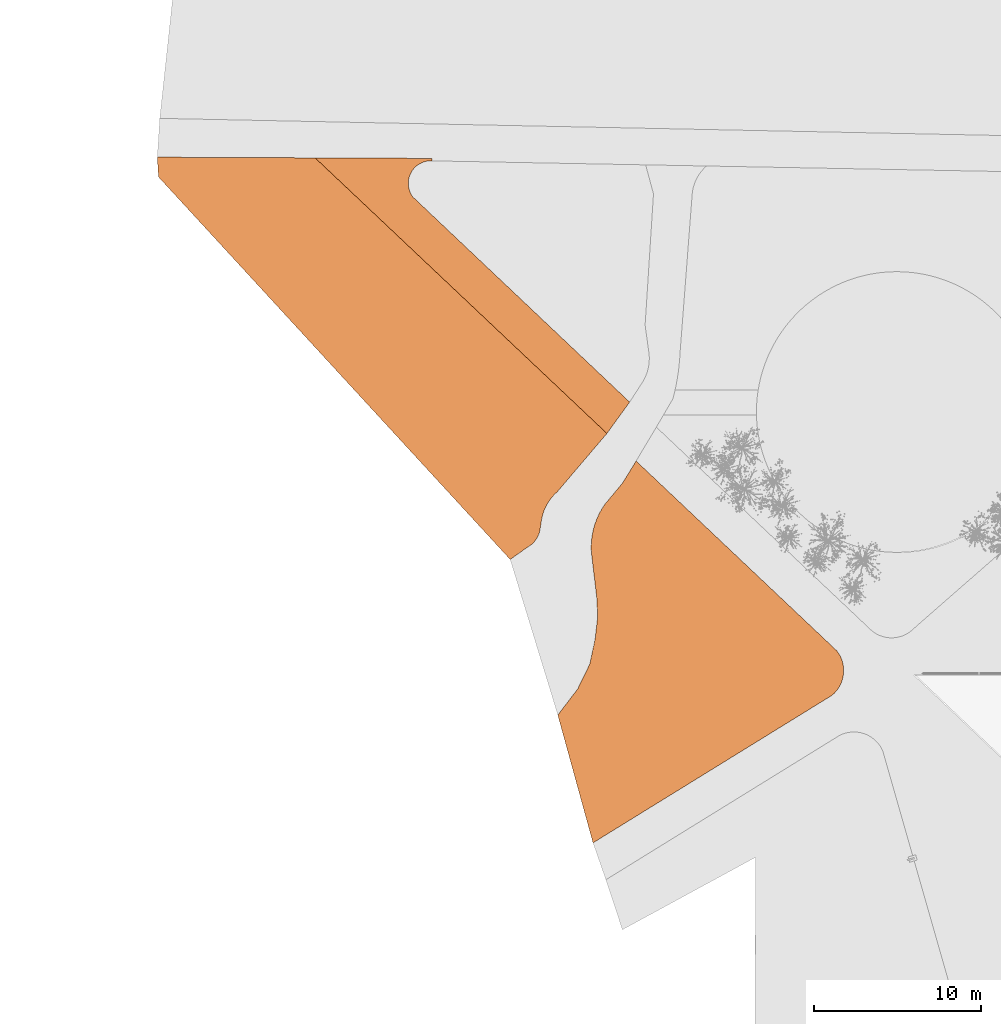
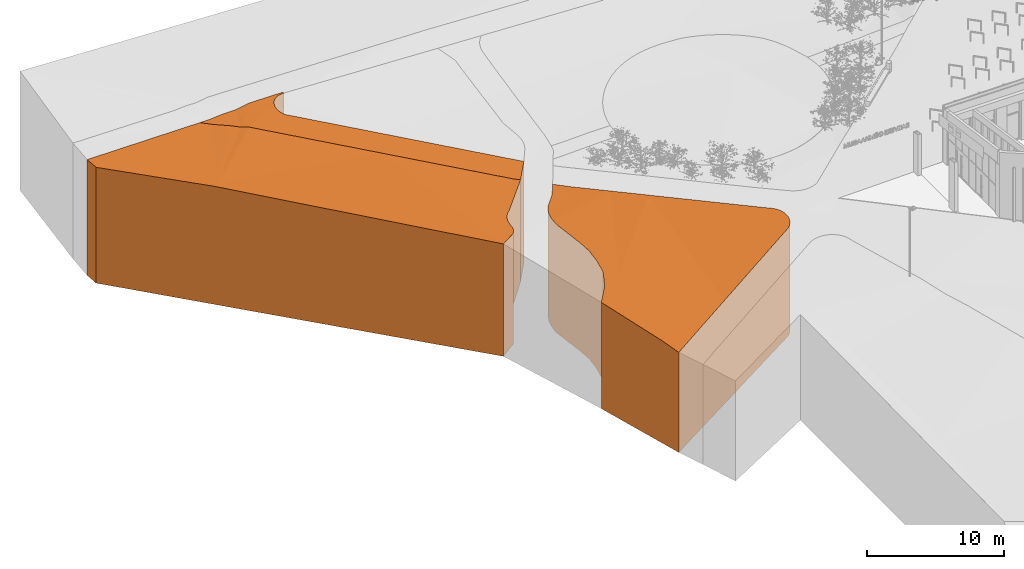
# One storey, part 218 of 246: 3 proxies.
"""IFC2X3 building model written with IfcOpenShell, lengths in millimetres."""

from ifc_helpers import new_model, entity, si_unit, converted_unit, derived_unit, money_unit, direction, frame, origin_with_axes, place, context, subcontext, project, spatial, faceted_brep, material, type_object, element, save


model = new_model("IFC2X3")

# Units and contexts
model_context = context("Model", 3, precision=0.01, world=origin_with_axes(), true_north=direction((0.0, 1.0)))
body_context = subcontext(model_context, "Body", "Model", "MODEL_VIEW")
ifc_project = project(units=[si_unit("LENGTHUNIT", "METRE", prefix="MILLI"), si_unit("AREAUNIT", "SQUARE_METRE"), si_unit("VOLUMEUNIT", "CUBIC_METRE"), converted_unit("PLANEANGLEUNIT", "DEGREE", entity("IfcPlaneAngleMeasure", 0.0174532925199), si_unit("PLANEANGLEUNIT", "RADIAN"), dimensions=[0, 0, 0, 0, 0, 0, 0]), si_unit("SOLIDANGLEUNIT", "STERADIAN"), money_unit("EUR"), converted_unit("TIMEUNIT", "Year", entity("IfcTimeMeasure", 31556926.0), si_unit("TIMEUNIT", "SECOND"), dimensions=[0, 0, 1, 0, 0, 0, 0]), si_unit("MASSUNIT", "GRAM", prefix="KILO"), si_unit("THERMODYNAMICTEMPERATUREUNIT", "DEGREE_CELSIUS"), si_unit("LUMINOUSINTENSITYUNIT", "LUMEN"), si_unit("ENERGYUNIT", "JOULE", prefix="MEGA"), derived_unit("THERMALCONDUCTANCEUNIT", [(si_unit("POWERUNIT", "WATT"), 1), (si_unit("LENGTHUNIT", "METRE"), -1), (si_unit("THERMODYNAMICTEMPERATUREUNIT", "KELVIN"), -1)]), derived_unit("SPECIFICHEATCAPACITYUNIT", [(si_unit("ENERGYUNIT", "JOULE"), 1), (si_unit("MASSUNIT", "GRAM", prefix="KILO"), -1), (si_unit("THERMODYNAMICTEMPERATUREUNIT", "KELVIN"), -1)]), derived_unit("MASSDENSITYUNIT", [(si_unit("MASSUNIT", "GRAM", prefix="KILO"), 1), (si_unit("VOLUMEUNIT", "CUBIC_METRE"), -1)])], contexts=[model_context])

# Site, building, storey
site_placement = place(None, origin_with_axes())
site = spatial("IfcSite", under=ifc_project, at=site_placement, Name="L.Koidula tn 11b", CompositionType="ELEMENT")
building_placement = place(site_placement, origin_with_axes())
building = spatial("IfcBuilding", under=site, at=building_placement, Name="Rakvere Riigigümnaasium", CompositionType="ELEMENT")
storey_placement = place(building_placement, origin_with_axes())
storey = spatial("IfcBuildingStorey", under=building, at=storey_placement, Name="1.korrus 0,00", CompositionType="ELEMENT", Elevation=0.0)

# Proxies
ifc_material_1 = material(Name="Roheala")
building_element_proxy_type_1 = type_object("IfcBuildingElementProxyType", Name="Roheala", PredefinedType="NOTDEFINED")
proxy_1_placement = place(storey_placement, frame((-15994.9548601, 62073.0268802, -10000.0), z_axis=(0.0, 0.0, 1.0), x_axis=(1.0, 0.0, 0.0)))
element("IfcBuildingElementProxy", 1, at=proxy_1_placement, inside=storey, type_object=building_element_proxy_type_1, material=ifc_material_1, Name="Roheala", context=body_context, shape_type="Brep", body=[
    faceted_brep([(16156.7066619, 10041.8390009, 9600.0), (17099.0324356, 10041.8185367, 9664.72939791), (17100.8469506, 10052.1401658, 9664.82402897), (17114.9200595, 10189.9067807, 9665.39017253), (17119.0155533, 10328.3297539, 9665.26903498), (17113.11208, 10466.6874121, 9664.46124788), (17097.2404176, 10604.2584226, 9662.97102264), (17071.4833135, 10740.3255537, 9660.80612862), (17035.9750535, 10874.1794145, 9657.97785256), (16990.900761, 11005.1221529, 9654.5009398), (16936.4954327, 11132.4710941, 9650.39351734), (16873.0427126, 11255.5622997, 9645.67699938), (16800.8734139, 11373.7540292, 9640.37597567), (16720.363794, 11486.4300856, 9634.51808329), (16701.0277631, 11509.0973122, 9633.12396681), (16237.3668593, 11947.4903487, 9600.0), (17076.8695973, 9915.74816045, 9663.64579033), (16921.1259948, 9469.99557827, 9654.49901788), (16947.0161435, 9521.8726301, 9656.09688378), (16999.7531691, 9649.92144392, 9659.2737779), (17043.1130064, 9781.44184953, 9661.79446064), (17076.8695973, 9915.74816045, 0.0), (17100.8469506, 10052.1401658, 0.0), (17114.9200595, 10189.9067807, 0.0), (17119.0155533, 10328.3297539, 0.0), (17113.11208, 10466.6874121, 0.0), (17097.2404176, 10604.2584226, 0.0), (17071.4833135, 10740.3255537, 0.0), (17035.9750535, 10874.1794145, 0.0), (16990.900761, 11005.1221529, 0.0), (16936.4954327, 11132.4710941, 0.0), (16873.0427126, 11255.5622997, 0.0), (16800.8734139, 11373.7540292, 0.0), (16720.363794, 11486.4300856, 0.0), (16701.0277631, 11509.0973122, 0.0), (16213.0162566, 11970.5139303, 9598.70852704), (4689.225664, 22866.2989935, 0.0), (4689.225664, 22866.2989935, 9100.28595113), (5734.1904822, 21878.2810348, 9100.54976443), (7820.29489852, 19905.8618767, 9201.46424914), (7831.56760316, 19895.2034943, 9200.62572091), (9920.79501551, 17919.8315322, 9300.77121466), (9935.33506409, 17906.0838645, 9299.75496812), (12020.7416541, 15934.3245035, 9399.03628629), (12025.9779707, 15929.3735476, 9399.29522313), (14108.2471472, 13960.5806223, 9498.42991466), (14115.6024252, 13953.6261807, 9498.80037399), (14125.6521433, 13944.1241365, 9499.27885234), (14139.9732124, 13930.5835146, 9500.0), (15324.9636344, 10041.8570637, 9557.58461595), (16076.4025394, 8620.30495858, 9598.97319683), (16097.0777387, 8633.06563527, 9600.0), (16885.1768762, 9397.96299531, 9652.22539984), (16398.2150977, 8818.92679297, 9620.26689285), (16452.2911499, 8862.17264516, 9623.87740265), (16553.9202794, 8956.24289882, 9630.62547462), (16648.4965868, 9057.40126302, 9636.86541763), (16735.5269952, 9165.12034488, 9642.5646995), (16814.5577683, 9278.838547, 9647.69360682), (16885.1768762, 9397.96299531, 0.0), (16947.0161435, 9521.8726301, 0.0), (16999.7531691, 9649.92144392, 0.0), (17043.1130064, 9781.44184953, 0.0), (16452.2911499, 8862.17264516, 0.0), (16398.2150977, 8818.92679297, 0.0), (2109.54738165, 0.0, 0.0), (0.0, 7655.52130176, 0.0), (1191.07207449, 9220.29064966, 0.0), (1917.33638755, 10709.5983163, 0.0), (2240.15294786, 12243.540292, 0.0), (2385.80077875, 13532.3336251, 0.0), (2329.21272424, 14707.5340145, 0.0), (2006.53798504, 17439.9481807, 0.0), (1998.62974885, 17649.857226, 0.0), (2001.87971486, 17861.7866882, 0.0), (2015.13430174, 18073.3262238, 0.0), (2038.3639333, 18284.0038054, 0.0), (2071.51677517, 18493.3493291, 0.0), (2114.51885039, 18700.895663, 0.0), (2167.27420451, 18906.1796902, 0.0), (2229.66511972, 19108.7433416, 0.0), (2301.55237747, 19308.1346187, 0.0), (2382.77556919, 19503.9086014, 0.0), (2473.15345419, 19695.6284416, 0.0), (2572.48436405, 19882.8663372, 0.0), (2680.54665268, 20065.2044872, 0.0), (2797.09919085, 20242.2360241, 0.0), (2859.49054757, 20327.9009726, 0.0), (3873.59231228, 21543.5403082, 0.0), (16814.5577683, 9278.838547, 0.0), (16735.5269952, 9165.12034488, 0.0), (16648.4965868, 9057.40126302, 0.0), (16553.9202794, 8956.24289882, 0.0), (3873.59231228, 21543.5403082, 9246.08283345), (2731.83241312, 20143.1023789, 9418.7140207), (2859.49054757, 20327.9009726, 9397.44489149), (2797.09919085, 20242.2360241, 9407.51547506), (2041.35838746, 18302.9124582, 9637.89208819), (2680.54665268, 20065.2044872, 9429.03804669), (2572.48436405, 19882.8663372, 9452.63557494), (2473.15345419, 19695.6284416, 9476.31549017), (2382.77556919, 19503.9086014, 9500.02495324), (2301.55237747, 19308.1346187, 9523.71105906), (2229.66511972, 19108.7433416, 9547.32095466), (2167.27420451, 18906.1796902, 9570.80195714), (2114.51885039, 18700.895663, 9594.1016712), (2071.51677517, 18493.3493291, 9617.16810607), (2844.89465221, 10042.1280895, 9585.08075181), (2038.3639333, 18284.0038054, 9638.1350055), (2015.13430174, 18073.3262238, 9640.07882843), (2001.87971486, 17861.7866882, 9641.27269878), (1998.62974885, 17649.857226, 9641.71395258), (2006.53798504, 17439.9481807, 9641.31353116), (2329.21272424, 14707.5340145, 9619.56347642), (2385.80077875, 13532.3336251, 9616.39496611), (2240.15294786, 12243.540292, 9628.55275141), (1997.6153108, 11091.0632883, 9647.87627078), (8013.21464666, 3643.72735476, 9202.03431083), (8048.01275203, 3665.2046506, 9200.38696971), (8893.11942086, 10041.9967421, 9244.88205016), (10008.9579584, 10041.9725097, 9300.0), (10981.1060363, 10041.9513979, 9346.66821972), (12056.8439641, 10041.9280364, 9400.0), (13102.2988653, 10041.9053326, 9449.90698628), (14067.285023, 7380.28310011, 9499.27535568), (16060.3833717, 8610.4179719, 9598.25787389), (14105.43552, 10041.8835478, 9500.0), (2163.93986106, 33.5708901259, 8905.3765435), (2109.54738165, 0.0, 8900.0), (14056.9456313, 7373.90165573, 9498.78970198), (12056.3519353, 6139.14067604, 9399.43554474), (12048.569951, 6134.33765653, 9399.06338372), (6009.91603472, 2407.29690832, 9102.61450968), (5913.45335294, 2347.76040388, 9100.0), (3950.85707139, 1136.4513249, 9002.64240426), (1643.09345214, 1692.75552886, 9101.55582809), (0.0, 7655.52130176, 9451.50249505), (1694.2790956, 1507.00346314, 9081.1301184), (1651.14743871, 1663.52771143, 9099.69219785), (1650.39848229, 1666.24566499, 9100.0), (1646.19224325, 1681.51005434, 9100.94449812), (1191.07207449, 9220.29064966, 9528.75841779), (1422.33153013, 9694.52086319, 9553.33782692), (1591.85626441, 10042.1553014, 9574.48079995), (1917.33638755, 10709.5983163, 9621.75324117)], [[[0, 1, 2, 3, 4, 5, 6, 7, 8, 9, 10, 11, 12, 13, 14, 15]], [[16, 1, 0, 17, 18, 19, 20]], [[1, 16, 21, 22, 2]], [[23, 3, 2, 22]], [[24, 4, 3, 23]], [[25, 5, 4, 24]], [[26, 6, 5, 25]], [[27, 7, 6, 26]], [[28, 8, 7, 27]], [[29, 9, 8, 28]], [[30, 10, 9, 29]], [[31, 11, 10, 30]], [[32, 12, 11, 31]], [[33, 13, 12, 32]], [[34, 14, 13, 33]], [[35, 15, 14, 34, 36, 37, 38, 39, 40, 41, 42, 43, 44, 45, 46, 47, 48]], [[49, 50, 51, 0, 15, 35]], [[52, 17, 0, 51, 53, 54, 55, 56, 57, 58]], [[17, 52, 59, 60, 18]], [[19, 18, 60, 61]], [[20, 19, 61, 62]], [[16, 20, 62, 21]], [[63, 64, 65, 66, 67, 68, 69, 70, 71, 72, 73, 74, 75, 76, 77, 78, 79, 80, 81, 82, 83, 84, 85, 86, 87, 88, 36, 34, 33, 32, 31, 30, 29, 28, 27, 26, 25, 24, 23, 22, 21, 62, 61, 60, 59, 89, 90, 91, 92]], [[88, 93, 37, 36]], [[94, 38, 37, 93, 95, 96]], [[97, 39, 38, 94, 98, 99, 100, 101, 102, 103, 104, 105, 106]], [[107, 40, 39, 97, 108, 109, 110, 111, 112, 113, 114, 115, 116]], [[107, 41, 40]], [[107, 117, 118, 119, 42, 41]], [[119, 43, 42]], [[119, 120, 44, 43]], [[120, 121, 45, 44]], [[121, 122, 46, 45]], [[122, 123, 47, 46]], [[123, 124, 125, 126, 48, 47]], [[126, 49, 35, 48]], [[125, 50, 49, 126]], [[127, 128, 65, 64, 53, 51, 50, 125, 124, 129, 130, 131, 118, 117, 132, 133, 134]], [[54, 53, 64, 63]], [[55, 54, 63, 92]], [[56, 55, 92, 91]], [[57, 56, 91, 90]], [[58, 57, 90, 89]], [[52, 58, 89, 59]], [[135, 136, 66, 65, 128, 137, 138, 139, 140]], [[136, 141, 67, 66]], [[142, 143, 144, 68, 67, 141]], [[144, 116, 115, 69, 68]], [[69, 115, 114, 70]], [[70, 114, 113, 71]], [[71, 113, 112, 72]], [[72, 112, 111, 73]], [[73, 111, 110, 74]], [[74, 110, 109, 75]], [[75, 109, 108, 76]], [[108, 97, 106, 77, 76]], [[77, 106, 105, 78]], [[78, 105, 104, 79]], [[79, 104, 103, 80]], [[80, 103, 102, 81]], [[81, 102, 101, 82]], [[82, 101, 100, 83]], [[83, 100, 99, 84]], [[84, 99, 98, 85]], [[98, 94, 96, 86, 85]], [[86, 96, 95, 87]], [[87, 95, 93, 88]], [[143, 107, 116, 144]], [[132, 117, 107]], [[118, 131, 120, 119]], [[131, 130, 121, 120]], [[130, 129, 122, 121]], [[129, 124, 123, 122]], [[128, 127, 137]], [[133, 132, 107, 140, 139]], [[134, 133, 139, 138]], [[127, 134, 138, 137]], [[136, 135, 142, 141]], [[107, 143, 142, 135, 140]]]),
])
proxy_2_placement = place(storey_placement, frame((-39979.8464002, 79045.9584901, -10000.0), z_axis=(0.0, 0.0, 1.0), x_axis=(1.0, 0.0, 0.0)))
element("IfcBuildingElementProxy", 2, at=proxy_2_placement, inside=storey, type_object=building_element_proxy_type_1, material=ifc_material_1, Name="Roheala", context=body_context, shape_type="Brep", body=[
    faceted_brep([(26486.3757892, 7959.3151724, 9100.0), (26926.8303127, 7543.38116835, 9100.0), (26926.8303103, 7543.38116575, 0.0), (9449.60285568, 24048.0912418, 0.0), (9449.60285568, 24048.0912418, 10300.0), (10168.4078918, 23369.2839909, 10300.0), (10168.6404536, 23369.0643699, 10300.024149), (11148.2202312, 22443.9931441, 10400.0), (11694.8116757, 21927.8166885, 10400.0), (11698.6901482, 21924.1540329, 10400.7833659), (12170.9665206, 21478.1573997, 10500.0), (13193.496286, 20512.5261309, 10400.0), (14216.0260514, 19546.8948621, 10300.0), (15238.5558168, 18581.2635933, 10200.0), (16261.0855823, 17615.6323245, 10100.0), (17283.6153483, 16650.0010551, 10000.0), (18306.1451137, 15684.3697863, 9900.0), (19328.674879, 14718.7385175, 9800.0), (20349.7235566, 13754.5059217, 9700.14484545), (20351.2046445, 13753.1072487, 9700.0), (21373.6231781, 12787.5810222, 9600.01087815), (21373.7344104, 12787.4759794, 9600.0), (22396.1875311, 11821.7987849, 9500.0), (24441.2816602, 9890.55697818, 9300.0), (23950.0048106, 4043.00613388, 9539.59531829), (23822.9452303, 3925.20500055, 9556.15722923), (23886.0020545, 3987.16803449, 9547.69408071), (23950.0048106, 4043.00613388, 0.0), (22554.7231036, 1033.02182379, 0.0), (22468.9575126, 945.513855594, 0.0), (22422.6510502, 905.400805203, 0.0), (21131.4168627, 0.0, 0.0), (74.9388148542, 22902.8680865, 0.0), (0.0, 24089.964197, 0.0), (23886.0020545, 3987.16803449, 0.0), (23764.8371226, 3868.10484216, 0.0), (23650.938367, 3742.07287008, 0.0), (23544.7058614, 3609.51481015, 0.0), (23446.5127512, 3470.8962774, 0.0), (23356.7039434, 3326.70417448, 0.0), (23275.5948947, 3177.4449814, 0.0), (23203.4705036, 3023.64297652, 0.0), (23140.5841095, 2865.838395, 0.0), (23087.1566033, 2704.58553119, 0.0), (23043.3756511, 2540.45079165, 0.0), (23009.395035, 2374.01070564, 0.0), (22985.3341131, 2205.84990002, 0.0), (22980.223162, 2143.2626427, 0.0), (22902.5265735, 1703.03817155, 0.0), (22897.2002394, 1675.49722792, 0.0), (22862.6627939, 1557.93640984, 0.0), (22818.6579709, 1443.58188812, 0.0), (22765.4786152, 1333.19467324, 0.0), (22703.4786266, 1227.50937389, 0.0), (22633.0706048, 1127.22930831, 0.0), (1.94613392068e-06, 24089.9641983, 10300.0), (74.9388166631, 22902.8680894, 10300.0), (10168.350298, 23368.9007708, 10300.0), (11148.1698221, 22443.6287265, 10400.0), (11694.7035984, 21927.5210006, 10400.0), (12170.7168859, 21478.0078213, 10500.0), (13193.2639505, 20512.3869179, 10400.0), (14215.811015, 19546.7660145, 10300.0), (15238.3580796, 18581.1451112, 10200.0), (16260.9051441, 17615.5242078, 10100.0), (17283.4522086, 16649.9033035, 10000.0), (18305.9992731, 15684.2824002, 9900.0), (19328.5463375, 14718.6614968, 9800.0), (20351.0934022, 13753.0405935, 9700.0), (21373.6404665, 12787.4196892, 9600.0), (21131.4168627, 0.0, 10000.0), (23764.8371226, 3868.10484216, 9565.18558943), (21260.8772774, 90.7763788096, 9993.57534021), (21317.6175631, 130.562113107, 9985.23668213), (23166.563418, 2931.02982408, 9668.57364191), (23203.4705036, 3023.64297652, 9661.15573927), (23275.5948947, 3177.4449814, 9647.47179852), (23356.7039434, 3326.70417448, 9632.79142929), (23446.5127512, 3470.8962774, 9617.1661969), (23544.7058614, 3609.51481015, 9600.65098555), (23650.938367, 3742.07287008, 9583.30380553), (22554.7231036, 1033.02182379, 9841.06449466), (22468.9575126, 945.513855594, 9852.79866364), (22422.6510502, 905.400805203, 9858.63672522), (21349.1825934, 152.695204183, 9981.6189935), (6135.66837192, 16310.6882719, 10500.0), (23140.5841095, 2865.838395, 9674.8229621), (23087.1566033, 2704.58553119, 9689.56831543), (23043.3756511, 2540.45079165, 9703.87991239), (23009.395035, 2374.01070564, 9717.70748297), (22997.3294151, 2289.6845782, 9724.37439739), (22985.3341131, 2205.84990002, 9731.00765453), (22980.223162, 2143.2626427, 9735.707286), (22902.5265735, 1703.03817155, 9771.50513243), (22897.2002394, 1675.49722792, 9773.77526075), (22862.6627939, 1557.93640984, 9784.24054717), (22818.6579709, 1443.58188812, 9795.10403074), (22765.4786152, 1333.19467324, 9806.29341677), (22703.4786266, 1227.50937389, 9817.73424173), (22633.0706048, 1127.22930831, 9829.35036883), (6604.14287658, 16500.3416848, 10500.0)], [[[0, 1, 2, 3, 4, 5, 6, 7, 8, 9, 10, 11, 12, 13, 14, 15, 16, 17, 18, 19, 20, 21, 22, 23]], [[24, 1, 0, 25, 26]], [[1, 24, 27, 2]], [[28, 29, 30, 31, 32, 33, 3, 2, 27, 34, 35, 36, 37, 38, 39, 40, 41, 42, 43, 44, 45, 46, 47, 48, 49, 50, 51, 52, 53, 54]], [[55, 4, 3, 33]], [[5, 4, 55, 56, 57]], [[6, 5, 57]], [[7, 6, 57, 58]], [[8, 7, 58, 59]], [[9, 8, 59]], [[10, 9, 59, 60]], [[11, 10, 60, 61]], [[12, 11, 61, 62]], [[13, 12, 62, 63]], [[14, 13, 63, 64]], [[15, 14, 64, 65]], [[16, 15, 65, 66]], [[17, 16, 66, 67]], [[18, 17, 67, 68]], [[19, 18, 68]], [[20, 19, 68, 69]], [[21, 20, 69]], [[22, 21, 69]], [[70, 23, 22, 69, 68, 67]], [[71, 25, 0, 23, 72, 73, 74, 75, 76, 77, 78, 79, 80]], [[25, 71, 35, 34, 26]], [[24, 26, 34, 27]], [[81, 82, 29, 28]], [[82, 83, 30, 29]], [[72, 70, 31, 30, 83, 84, 73]], [[85, 56, 32, 31, 70]], [[56, 55, 33, 32]], [[71, 80, 36, 35]], [[80, 79, 37, 36]], [[79, 78, 38, 37]], [[78, 77, 39, 38]], [[77, 76, 40, 39]], [[76, 75, 41, 40]], [[74, 86, 42, 41, 75]], [[86, 87, 43, 42]], [[87, 88, 44, 43]], [[88, 89, 45, 44]], [[90, 91, 46, 45, 89]], [[91, 92, 47, 46]], [[92, 93, 48, 47]], [[93, 94, 49, 48]], [[94, 95, 50, 49]], [[95, 96, 51, 50]], [[96, 97, 52, 51]], [[97, 98, 53, 52]], [[98, 99, 54, 53]], [[99, 81, 28, 54]], [[56, 100, 57]], [[100, 58, 57]], [[58, 100, 59]], [[100, 60, 59]], [[61, 60, 100, 67, 66, 65, 64, 63, 62]], [[70, 72, 23]], [[100, 70, 67]], [[86, 74, 73, 84, 90, 89, 88, 87]], [[91, 90, 84, 83, 82, 81, 99, 98, 97, 96, 95, 94, 93, 92]], [[56, 85, 100]], [[85, 70, 100]]]),
])
ifc_material_2 = material(Name="Sillutiskivi")
building_element_proxy_type_2 = type_object("IfcBuildingElementProxyType", Name="Sillutiskivi", PredefinedType="NOTDEFINED")
proxy_3_placement = place(storey_placement, frame((-30530.2435445, 86589.3396559, -10000.0), z_axis=(0.0, 0.0, 1.0), x_axis=(1.0, 0.0, 0.0)))
element("IfcBuildingElementProxy", 3, at=proxy_3_placement, inside=storey, type_object=building_element_proxy_type_2, material=ifc_material_2, Name="Sillutatud kõnnitee", context=body_context, shape_type="Brep", body=[
    faceted_brep([(5587.61805748, 14882.9836361, 10494.1607394), (5587.61805748, 14882.9836361, 0.0), (5584.70825957, 14999.2148987, 0.0), (5584.70825957, 14999.2148987, 10511.0334922), (5586.37989719, 14932.4416873, 10500.0), (5586.38878065, 14932.0868391, 10499.9609607), (5600.50888092, 14767.4327816, 0.0), (5600.50888092, 14767.4327816, 10479.8143316), (5623.28529075, 14653.4178331, 0.0), (5655.77865839, 14541.7829175, 0.0), (5697.74841431, 14433.3545407, 0.0), (5748.88382914, 14328.9354683, 0.0), (5808.80631414, 14229.2987828, 0.0), (5864.00247474, 14153.9846052, 0.0), (18838.3202722, 1878.12743611, 0.0), (17477.2274546, 0.0, 0.0), (0.0, 16504.710076, 0.0), (6995.01080116, 16473.7138766, 0.0), (6989.08375254, 16323.8310217, 0.0), (6930.9953135, 16326.1281024, 0.0), (6814.85356575, 16320.7181349, 0.0), (6699.6068212, 16305.3440922, 0.0), (6586.10832643, 16280.1197983, 0.0), (6475.19838457, 16245.2320051, 0.0), (6367.69813404, 16200.9390096, 0.0), (6264.40346908, 16147.5687416, 0.0), (6166.07914724, 16085.5163359, 0.0), (6073.45312741, 16015.2412068, 0.0), (5987.21118023, 15937.2636468, 0.0), (5907.99181091, 15852.1609744, 0.0), (5836.38153193, 15760.5632602, 0.0), (5772.91052075, 15663.1486614, 0.0), (5718.04869453, 15560.6384017, 0.0), (5672.20223104, 15453.7914312, 0.0), (5635.71056145, 15343.3988075, 0.0), (5608.84385731, 15230.2778389, 0.0), (5591.80103031, 15115.2660336, 0.0), (5591.80103031, 15115.2660336, 10530.6791506), (5608.84385731, 15230.2778389, 10550.6191613), (5635.71056145, 15343.3988075, 10570.7058954), (5672.20223104, 15453.7914312, 10590.7906377), (5690.98658481, 15497.5691, 10598.9580779), (4770.61781639, 15162.6676101, 10500.0), (5537.3319766, 14043.7543408, 10400.0), (4647.64942192, 15088.9862503, 10500.0), (5793.16488081, 14197.0467068, 10400.0), (5762.40475864, 14306.4534134, 10414.8774314), (5748.88382914, 14328.9354683, 10418.4366763), (5697.74841431, 14433.3545407, 10434.1544716), (5655.77865839, 14541.7829175, 10449.6997187), (5623.28529075, 14653.4178331, 10464.9573261), (5788.48044039, 14263.0958239, 10410.1298556), (5802.01724719, 14240.5873688, 10404.5492067), (5808.80631414, 14229.2987828, 10403.3763867), (5864.00247474, 14153.9846052, 10395.5588991), (10875.6213325, 9412.16170207, 9904.48713324), (10920.8003654, 9369.41484145, 9899.59076434), (10930.2652445, 9360.4594955, 9898.60165443), (18838.3202724, 1878.12743652, 9124.24890299), (17477.227457, 2.59427679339e-06, 9100.0), (18348.072801, 1201.65099443, 9100.0), (2249.08729251, 14380.7728672, 10400.7833659), (2245.20882, 14384.4355227, 10400.0), (1698.61737549, 14900.6119783, 10400.0), (719.03759793, 15825.6832041, 10300.024149), (718.805036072, 15825.9028251, 10300.0), (0.0, 16504.710076, 10300.0), (17036.7803818, 415.938469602, 9100.0), (16014.2506164, 1381.56973841, 9200.0), (14991.7208516, 2347.20100662, 9300.0), (13969.1910862, 3312.83227544, 9400.0), (12946.6613208, 4278.46354425, 9500.0), (11924.1315547, 5244.09481365, 9600.0), (11924.0203224, 5244.1998565, 9600.01087815), (10901.6017888, 6209.72608292, 9700.0), (10900.1207009, 6211.12475592, 9700.14484545), (9879.07202336, 7175.35735178, 9800.0), (8856.54225799, 8140.98862055, 9900.0), (7834.01249258, 9106.61988936, 10000.0), (6811.48272658, 10072.2511587, 10100.0), (5788.95296116, 11037.8824275, 10200.0), (4766.42319575, 12003.5136963, 10300.0), (3743.89343034, 12969.1449652, 10400.0), (2721.36366492, 13934.776234, 10500.0), (3018.84960162, 16491.3329896, 10400.5324276), (3035.9624742, 16491.2571592, 10400.9644444), (4127.86502457, 16486.4187351, 10598.5590283), (4130.15556801, 16486.4085853, 10598.4792863), (4152.54205902, 16486.3093865, 10600.0), (5286.82606774, 16481.2831622, 10600.0), (5747.32320667, 16479.2426134, 10600.0), (6995.01080116, 16473.7138766, 10589.2562797), (820.114462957, 16501.0759957, 10300.0), (820.243053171, 16501.0754258, 10300.0009107), (826.058760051, 16501.0496554, 10300.5261892), (1908.34630952, 16496.2538371, 10399.0077021), (1919.33235536, 16496.2051559, 10400.0), (3015.30936972, 16491.348677, 10400.0), (6989.08375254, 16323.8310217, 10590.8413661), (6930.9953135, 16326.1281024, 10591.3206877), (6814.85356575, 16320.7181349, 10592.3814011), (6699.6068212, 16305.3440922, 10593.5363314), (6586.10832643, 16280.1197983, 10594.776928), (6475.19838457, 16245.2320051, 10596.0940058), (6367.69813404, 16200.9390096, 10597.4778138), (6264.40346908, 16147.5687416, 10598.9181067), (6214.8933454, 16116.3229397, 10599.6664231), (6200.85359446, 16107.4624634, 10599.1293031), (6189.86409541, 16100.5269988, 10598.8861248), (6178.73899234, 16093.5059546, 10598.1454739), (6166.07914724, 16085.5163359, 10599.2779397), (6073.45312741, 16015.2412068, 10600.0), (6155.97998793, 16077.854129, 10600.0), (5987.21118023, 15937.2636468, 10600.0), (5907.99181091, 15852.1609744, 10600.0), (5836.38153193, 15760.5632602, 10600.0), (5772.91052075, 15663.1486614, 10600.0), (5718.04869453, 15560.6384017, 10600.0), (5694.25362324, 15505.1830604, 10600.0), (2754.00080475, 13954.3320626, 10500.0), (6815.7119453, 13231.4258025, 10300.0), (7838.25900973, 12265.8048992, 10200.0), (8860.80607392, 11300.1839958, 10100.0), (9883.35313846, 10334.5630925, 10000.0), (10905.9002029, 9368.9421891, 9900.0), (18063.7296535, 2609.59586379, 9200.0), (11928.4472673, 8403.32128575, 9800.0), (12950.9943316, 7437.70038241, 9700.0), (13973.541396, 6472.07947905, 9600.0), (14996.0884603, 5506.45857571, 9500.0), (16018.6355249, 4540.83767235, 9400.0), (17041.1825893, 3575.21676807, 9300.0), (820.270687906, 16501.0394643, 10300.0), (11765.1098595, 6727.1309701, 9700.0), (9955.76146743, 7221.30885366, 9800.0), (6182.34774116, 16111.2557072, 10600.0)], [[[0, 1, 2, 3, 4, 5]], [[6, 1, 0, 7]], [[1, 6, 8, 9, 10, 11, 12, 13, 14, 15, 16, 17, 18, 19, 20, 21, 22, 23, 24, 25, 26, 27, 28, 29, 30, 31, 32, 33, 34, 35, 36, 2]], [[2, 36, 37, 3]], [[4, 3, 37, 38, 39, 40, 41, 42]], [[43, 5, 4, 44]], [[0, 5, 43, 45, 46, 47, 48, 49, 50, 7]], [[6, 7, 50, 8]], [[49, 9, 8, 50]], [[10, 9, 49, 48]], [[11, 10, 48, 47]], [[12, 11, 47, 46, 51, 52, 53]], [[13, 12, 53, 54]], [[13, 54, 55, 56, 57, 58, 14]], [[59, 15, 14, 58, 60]], [[61, 62, 63, 64, 65, 66, 16, 15, 59, 67, 68, 69, 70, 71, 72, 73, 74, 75, 76, 77, 78, 79, 80, 81, 82, 83]], [[84, 85, 86, 87, 88, 89, 90, 91, 17, 16, 66, 92, 93, 94, 95, 96, 97]], [[18, 17, 91, 98]], [[19, 18, 98, 99]], [[20, 19, 99, 100]], [[21, 20, 100, 101]], [[102, 22, 21, 101]], [[23, 22, 102, 103]], [[24, 23, 103, 104]], [[25, 24, 104, 105]], [[26, 25, 105, 106, 107, 108, 109, 110]], [[111, 27, 26, 110, 112]], [[28, 27, 111, 113]], [[29, 28, 113, 114]], [[30, 29, 114, 115]], [[31, 30, 115, 116]], [[32, 31, 116, 117]], [[33, 32, 117, 118, 41, 40]], [[34, 33, 40, 39]], [[38, 35, 34, 39]], [[37, 36, 35, 38]], [[87, 42, 41, 118, 88]], [[44, 4, 42]], [[83, 82, 43, 44, 119]], [[82, 81, 120, 45, 43]], [[45, 51, 46]], [[51, 45, 52]], [[45, 120, 121, 122, 123, 124, 55, 54, 53, 52]], [[124, 56, 55]], [[124, 57, 56]], [[125, 58, 57, 124, 126, 127, 128, 129, 130, 131]], [[68, 67, 60, 58, 125]], [[59, 60, 67]], [[62, 61, 119, 84, 97]], [[63, 62, 97, 96]], [[64, 63, 96, 95]], [[65, 64, 95, 94, 132]], [[66, 65, 132, 92]], [[69, 68, 125, 131]], [[70, 69, 131, 130]], [[70, 130, 129, 71]], [[128, 72, 71, 129]], [[72, 128, 127, 133, 73]], [[73, 133, 74]], [[75, 74, 133, 127, 126, 134]], [[75, 134, 76]], [[76, 134, 126, 124, 77]], [[78, 77, 124, 123]], [[79, 78, 123, 122]], [[80, 79, 122, 121]], [[81, 80, 121, 120]], [[61, 83, 119]], [[119, 44, 85, 84]], [[85, 44, 86]], [[44, 42, 87, 86]], [[89, 88, 118, 117, 116, 115, 114, 113, 111, 112, 135]], [[90, 89, 135]], [[91, 90, 135, 106, 105, 104, 103, 102, 101, 100, 99, 98]], [[92, 132, 93]], [[132, 94, 93]], [[107, 106, 135]], [[108, 107, 135]], [[109, 108, 135]], [[110, 109, 135, 112]]]),
])

save(model, "model.ifc")
